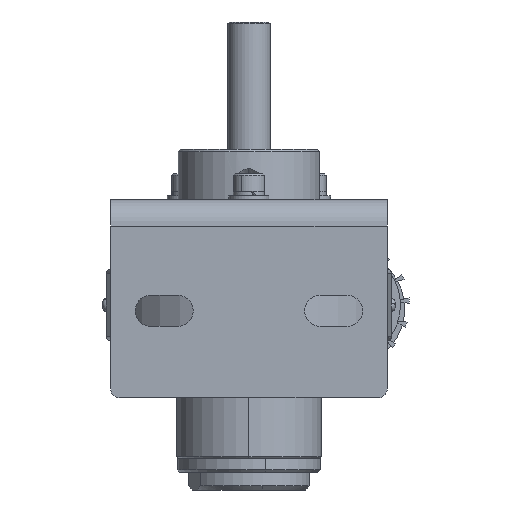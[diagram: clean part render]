
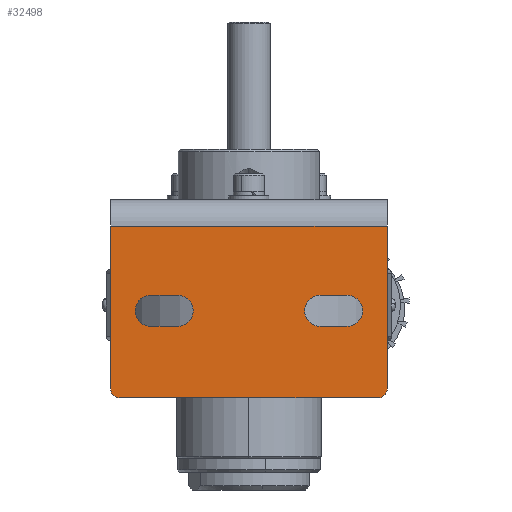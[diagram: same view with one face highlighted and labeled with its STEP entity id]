
A CAD part, front view. The second image highlights one B-rep face of the part: STEP entity #32498.
In plain terms, the highlighted planar face has unit normal (0, -1, 0).
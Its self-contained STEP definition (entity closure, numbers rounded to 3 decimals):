
#146 = VERTEX_POINT ( 'NONE', #63024 ) ;
#300 = EDGE_CURVE ( 'NONE', #47330, #63071, #31693, .T. ) ;
#456 = ORIENTED_EDGE ( 'NONE', *, *, #44140, .F. ) ;
#597 = CARTESIAN_POINT ( 'NONE',  ( 16., -43.85, -1.32 ) ) ;
#1677 = CARTESIAN_POINT ( 'NONE',  ( 16., -43.85, 2.18 ) ) ;
#2750 = VERTEX_POINT ( 'NONE', #60445 ) ;
#2861 = CARTESIAN_POINT ( 'NONE',  ( -29., -43.85, -18.82 ) ) ;
#2906 = ORIENTED_EDGE ( 'NONE', *, *, #13239, .T. ) ;
#3047 = LINE ( 'NONE', #27915, #39923 ) ;
#3324 = CARTESIAN_POINT ( 'NONE',  ( 31., -43.85, -20.82 ) ) ;
#3692 = EDGE_CURVE ( 'NONE', #47014, #44232, #3694, .T. ) ;
#3694 = CIRCLE ( 'NONE', #20489, 3.5 ) ;
#4500 = CARTESIAN_POINT ( 'NONE',  ( 31., -43.85, 17.68 ) ) ;
#4536 = LINE ( 'NONE', #37900, #9160 ) ;
#5489 = DIRECTION ( 'NONE',  ( 0., -1., 0. ) ) ;
#6059 = DIRECTION ( 'NONE',  ( -1., 0., 0. ) ) ;
#7066 = AXIS2_PLACEMENT_3D ( 'NONE', #2861, #17008, #51719 ) ;
#7331 = CARTESIAN_POINT ( 'NONE',  ( -31., -43.85, -20.82 ) ) ;
#7383 = CARTESIAN_POINT ( 'NONE',  ( -25.5, -43.85, -1.32 ) ) ;
#7707 = CARTESIAN_POINT ( 'NONE',  ( 16., -43.85, -4.82 ) ) ;
#7749 = VECTOR ( 'NONE', #22232, 1000. ) ;
#7939 = EDGE_CURVE ( 'NONE', #11061, #35973, #58249, .T. ) ;
#8409 = CARTESIAN_POINT ( 'NONE',  ( 31., -43.85, -20.82 ) ) ;
#8533 = EDGE_LOOP ( 'NONE', ( #58964, #47891, #30045, #51367, #16988 ) ) ;
#8987 = CARTESIAN_POINT ( 'NONE',  ( 22., -43.85, 2.18 ) ) ;
#9160 = VECTOR ( 'NONE', #22867, 1000. ) ;
#9205 = EDGE_CURVE ( 'NONE', #15052, #47330, #13287, .T. ) ;
#9851 = CARTESIAN_POINT ( 'NONE',  ( 29., -43.85, -18.82 ) ) ;
#10297 = AXIS2_PLACEMENT_3D ( 'NONE', #47529, #17615, #57225 ) ;
#10562 = ORIENTED_EDGE ( 'NONE', *, *, #300, .T. ) ;
#11061 = VERTEX_POINT ( 'NONE', #7383 ) ;
#11804 = EDGE_CURVE ( 'NONE', #15724, #45641, #59436, .T. ) ;
#12199 = CIRCLE ( 'NONE', #58433, 3.5 ) ;
#12236 = CIRCLE ( 'NONE', #7066, 2. ) ;
#13192 = CIRCLE ( 'NONE', #47905, 3.5 ) ;
#13239 = EDGE_CURVE ( 'NONE', #63071, #2750, #4536, .T. ) ;
#13287 = CIRCLE ( 'NONE', #41595, 2. ) ;
#13998 = CARTESIAN_POINT ( 'NONE',  ( 29., -43.85, -20.82 ) ) ;
#14251 = EDGE_CURVE ( 'NONE', #26860, #47014, #58185, .T. ) ;
#14671 = DIRECTION ( 'NONE',  ( 0., -1., 0. ) ) ;
#15052 = VERTEX_POINT ( 'NONE', #13998 ) ;
#15058 = DIRECTION ( 'NONE',  ( 0., 0., 1. ) ) ;
#15129 = DIRECTION ( 'NONE',  ( 0., -1., 0. ) ) ;
#15724 = VERTEX_POINT ( 'NONE', #38011 ) ;
#16663 = DIRECTION ( 'NONE',  ( -1., 0., 0. ) ) ;
#16988 = ORIENTED_EDGE ( 'NONE', *, *, #40743, .F. ) ;
#17008 = DIRECTION ( 'NONE',  ( 0., -1., 0. ) ) ;
#17102 = CARTESIAN_POINT ( 'NONE',  ( -22., -43.85, -4.82 ) ) ;
#17615 = DIRECTION ( 'NONE',  ( 0., -1., 0. ) ) ;
#17742 = VECTOR ( 'NONE', #15058, 1000. ) ;
#17796 = DIRECTION ( 'NONE',  ( 1., 0., 0. ) ) ;
#18981 = CIRCLE ( 'NONE', #10297, 3.5 ) ;
#19717 = DIRECTION ( 'NONE',  ( 0., 0., -1. ) ) ;
#20056 = ORIENTED_EDGE ( 'NONE', *, *, #9205, .T. ) ;
#20481 = CARTESIAN_POINT ( 'NONE',  ( 22., -43.85, -1.32 ) ) ;
#20489 = AXIS2_PLACEMENT_3D ( 'NONE', #597, #5489, #39823 ) ;
#20616 = FACE_BOUND ( 'NONE', #25387, .T. ) ;
#22124 = AXIS2_PLACEMENT_3D ( 'NONE', #49552, #14671, #49778 ) ;
#22232 = DIRECTION ( 'NONE',  ( -1., 0., 0. ) ) ;
#22293 = EDGE_CURVE ( 'NONE', #146, #49276, #12236, .T. ) ;
#22867 = DIRECTION ( 'NONE',  ( -1., 0., 0. ) ) ;
#23797 = DIRECTION ( 'NONE',  ( -1., 0., 0. ) ) ;
#24145 = CARTESIAN_POINT ( 'NONE',  ( -16., -43.85, 2.18 ) ) ;
#24470 = VERTEX_POINT ( 'NONE', #44967 ) ;
#25387 = EDGE_LOOP ( 'NONE', ( #44392, #46428, #60465, #26193, #55645 ) ) ;
#26193 = ORIENTED_EDGE ( 'NONE', *, *, #49838, .F. ) ;
#26319 = AXIS2_PLACEMENT_3D ( 'NONE', #37970, #57768, #23797 ) ;
#26512 = DIRECTION ( 'NONE',  ( 0., 0., 1. ) ) ;
#26860 = VERTEX_POINT ( 'NONE', #8987 ) ;
#27915 = CARTESIAN_POINT ( 'NONE',  ( -22., -43.85, 2.18 ) ) ;
#28552 = LINE ( 'NONE', #3324, #7749 ) ;
#29134 = FACE_OUTER_BOUND ( 'NONE', #45625, .T. ) ;
#29883 = CARTESIAN_POINT ( 'NONE',  ( 16., -43.85, 2.18 ) ) ;
#30045 = ORIENTED_EDGE ( 'NONE', *, *, #41531, .F. ) ;
#30190 = LINE ( 'NONE', #7331, #60963 ) ;
#30249 = CARTESIAN_POINT ( 'NONE',  ( -29., -43.85, -20.82 ) ) ;
#31693 = LINE ( 'NONE', #59617, #17742 ) ;
#32498 = ADVANCED_FACE ( 'NONE', ( #20616, #55315, #29134 ), #43644, .T. ) ;
#32998 = VECTOR ( 'NONE', #17796, 1000. ) ;
#35060 = VERTEX_POINT ( 'NONE', #38112 ) ;
#35938 = VECTOR ( 'NONE', #57157, 1000. ) ;
#35973 = VERTEX_POINT ( 'NONE', #17102 ) ;
#36083 = AXIS2_PLACEMENT_3D ( 'NONE', #8409, #42787, #57638 ) ;
#37149 = CARTESIAN_POINT ( 'NONE',  ( 31., -43.85, -18.82 ) ) ;
#37362 = EDGE_CURVE ( 'NONE', #45641, #35060, #3047, .T. ) ;
#37900 = CARTESIAN_POINT ( 'NONE',  ( 31., -43.85, 17.68 ) ) ;
#37970 = CARTESIAN_POINT ( 'NONE',  ( -22., -43.85, -1.32 ) ) ;
#38011 = CARTESIAN_POINT ( 'NONE',  ( -16., -43.85, -4.82 ) ) ;
#38112 = CARTESIAN_POINT ( 'NONE',  ( -22., -43.85, 2.18 ) ) ;
#39823 = DIRECTION ( 'NONE',  ( -1., 0., 0. ) ) ;
#39850 = EDGE_CURVE ( 'NONE', #63771, #24470, #54364, .T. ) ;
#39923 = VECTOR ( 'NONE', #47245, 1000. ) ;
#40743 = EDGE_CURVE ( 'NONE', #44232, #63771, #13192, .T. ) ;
#41252 = VECTOR ( 'NONE', #16663, 1000. ) ;
#41531 = EDGE_CURVE ( 'NONE', #24470, #26860, #12199, .T. ) ;
#41595 = AXIS2_PLACEMENT_3D ( 'NONE', #9851, #49229, #19717 ) ;
#42787 = DIRECTION ( 'NONE',  ( 0., -1., 0. ) ) ;
#43644 = PLANE ( 'NONE',  #36083 ) ;
#44140 = EDGE_CURVE ( 'NONE', #146, #2750, #30190, .T. ) ;
#44232 = VERTEX_POINT ( 'NONE', #57009 ) ;
#44392 = ORIENTED_EDGE ( 'NONE', *, *, #62778, .F. ) ;
#44967 = CARTESIAN_POINT ( 'NONE',  ( 22., -43.85, -4.82 ) ) ;
#45625 = EDGE_LOOP ( 'NONE', ( #456, #47106, #62727, #20056, #10562, #2906 ) ) ;
#45626 = DIRECTION ( 'NONE',  ( 0., -1., 0. ) ) ;
#45641 = VERTEX_POINT ( 'NONE', #24145 ) ;
#46428 = ORIENTED_EDGE ( 'NONE', *, *, #37362, .F. ) ;
#47014 = VERTEX_POINT ( 'NONE', #29883 ) ;
#47106 = ORIENTED_EDGE ( 'NONE', *, *, #22293, .T. ) ;
#47245 = DIRECTION ( 'NONE',  ( -1., 0., 0. ) ) ;
#47330 = VERTEX_POINT ( 'NONE', #37149 ) ;
#47529 = CARTESIAN_POINT ( 'NONE',  ( -22., -43.85, -1.32 ) ) ;
#47891 = ORIENTED_EDGE ( 'NONE', *, *, #14251, .F. ) ;
#47905 = AXIS2_PLACEMENT_3D ( 'NONE', #50155, #45626, #6059 ) ;
#49229 = DIRECTION ( 'NONE',  ( 0., -1., 0. ) ) ;
#49276 = VERTEX_POINT ( 'NONE', #30249 ) ;
#49552 = CARTESIAN_POINT ( 'NONE',  ( -16., -43.85, -1.32 ) ) ;
#49778 = DIRECTION ( 'NONE',  ( -1., 0., 0. ) ) ;
#49838 = EDGE_CURVE ( 'NONE', #35973, #15724, #60678, .T. ) ;
#50155 = CARTESIAN_POINT ( 'NONE',  ( 16., -43.85, -1.32 ) ) ;
#51106 = CARTESIAN_POINT ( 'NONE',  ( 16., -43.85, -4.82 ) ) ;
#51367 = ORIENTED_EDGE ( 'NONE', *, *, #39850, .F. ) ;
#51719 = DIRECTION ( 'NONE',  ( 0., 0., -1. ) ) ;
#53231 = EDGE_CURVE ( 'NONE', #15052, #49276, #28552, .T. ) ;
#54364 = LINE ( 'NONE', #7707, #35938 ) ;
#55315 = FACE_BOUND ( 'NONE', #8533, .T. ) ;
#55645 = ORIENTED_EDGE ( 'NONE', *, *, #7939, .F. ) ;
#57009 = CARTESIAN_POINT ( 'NONE',  ( 12.5, -43.85, -1.32 ) ) ;
#57157 = DIRECTION ( 'NONE',  ( 1., 0., 0. ) ) ;
#57197 = CARTESIAN_POINT ( 'NONE',  ( -22., -43.85, -4.82 ) ) ;
#57225 = DIRECTION ( 'NONE',  ( -1., 0., 0. ) ) ;
#57638 = DIRECTION ( 'NONE',  ( 0., 0., -1. ) ) ;
#57768 = DIRECTION ( 'NONE',  ( 0., -1., 0. ) ) ;
#58185 = LINE ( 'NONE', #1677, #41252 ) ;
#58249 = CIRCLE ( 'NONE', #26319, 3.5 ) ;
#58433 = AXIS2_PLACEMENT_3D ( 'NONE', #20481, #15129, #59487 ) ;
#58964 = ORIENTED_EDGE ( 'NONE', *, *, #3692, .F. ) ;
#59436 = CIRCLE ( 'NONE', #22124, 3.5 ) ;
#59487 = DIRECTION ( 'NONE',  ( -1., 0., 0. ) ) ;
#59617 = CARTESIAN_POINT ( 'NONE',  ( 31., -43.85, -20.82 ) ) ;
#60445 = CARTESIAN_POINT ( 'NONE',  ( -31., -43.85, 17.68 ) ) ;
#60465 = ORIENTED_EDGE ( 'NONE', *, *, #11804, .F. ) ;
#60678 = LINE ( 'NONE', #57197, #32998 ) ;
#60963 = VECTOR ( 'NONE', #26512, 1000. ) ;
#62727 = ORIENTED_EDGE ( 'NONE', *, *, #53231, .F. ) ;
#62778 = EDGE_CURVE ( 'NONE', #35060, #11061, #18981, .T. ) ;
#63024 = CARTESIAN_POINT ( 'NONE',  ( -31., -43.85, -18.82 ) ) ;
#63071 = VERTEX_POINT ( 'NONE', #4500 ) ;
#63771 = VERTEX_POINT ( 'NONE', #51106 ) ;
